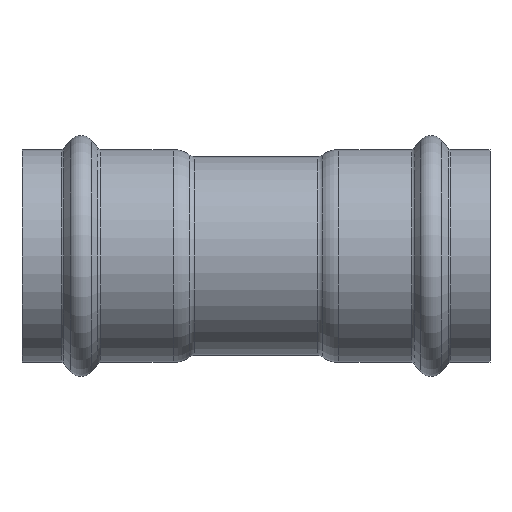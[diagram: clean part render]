
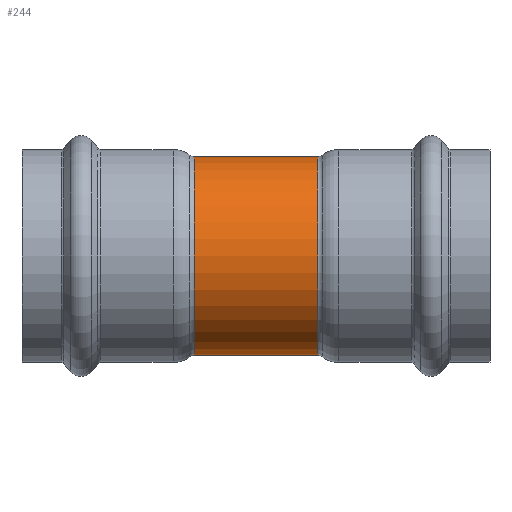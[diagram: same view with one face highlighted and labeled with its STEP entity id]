
A CAD part, front view. The second image highlights one B-rep face of the part: STEP entity #244.
In plain terms, the highlighted cylindrical face has radius 27 mm (diameter 54 mm), a partial arc.
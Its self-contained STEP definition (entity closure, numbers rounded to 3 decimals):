
#46 = AXIS2_PLACEMENT_3D ( 'NONE', #2909, #4128, #4511 ) ;
#244 = ADVANCED_FACE ( 'NONE', ( #2873 ), #4827, .T. ) ;
#294 = LINE ( 'NONE', #3842, #418 ) ;
#405 = CIRCLE ( 'NONE', #2548, 27. ) ;
#418 = VECTOR ( 'NONE', #4997, 1000. ) ;
#693 = VERTEX_POINT ( 'NONE', #1631 ) ;
#715 = DIRECTION ( 'NONE',  ( -1., 0., 0. ) ) ;
#754 = ORIENTED_EDGE ( 'NONE', *, *, #1159, .T. ) ;
#1021 = LINE ( 'NONE', #1403, #3333 ) ;
#1117 = VERTEX_POINT ( 'NONE', #2250 ) ;
#1159 = EDGE_CURVE ( 'NONE', #2356, #2861, #2382, .T. ) ;
#1198 = EDGE_CURVE ( 'NONE', #2356, #1117, #294, .T. ) ;
#1403 = CARTESIAN_POINT ( 'NONE',  ( -17.486, 0., 27. ) ) ;
#1631 = CARTESIAN_POINT ( 'NONE',  ( -16.734, 0., 27. ) ) ;
#1790 = DIRECTION ( 'NONE',  ( -1., 0., 0. ) ) ;
#1934 = AXIS2_PLACEMENT_3D ( 'NONE', #3050, #715, #3449 ) ;
#2030 = DIRECTION ( 'NONE',  ( -1., 0., 0. ) ) ;
#2032 = ORIENTED_EDGE ( 'NONE', *, *, #1198, .F. ) ;
#2095 = ORIENTED_EDGE ( 'NONE', *, *, #3145, .F. ) ;
#2250 = CARTESIAN_POINT ( 'NONE',  ( -16.734, 0., -27. ) ) ;
#2356 = VERTEX_POINT ( 'NONE', #3526 ) ;
#2382 = CIRCLE ( 'NONE', #1934, 27. ) ;
#2548 = AXIS2_PLACEMENT_3D ( 'NONE', #4374, #2030, #4758 ) ;
#2655 = ORIENTED_EDGE ( 'NONE', *, *, #4160, .T. ) ;
#2861 = VERTEX_POINT ( 'NONE', #4147 ) ;
#2873 = FACE_OUTER_BOUND ( 'NONE', #4287, .T. ) ;
#2909 = CARTESIAN_POINT ( 'NONE',  ( -17.486, 0., 0. ) ) ;
#3050 = CARTESIAN_POINT ( 'NONE',  ( 16.734, 0., 0. ) ) ;
#3145 = EDGE_CURVE ( 'NONE', #1117, #693, #405, .T. ) ;
#3333 = VECTOR ( 'NONE', #1790, 1000. ) ;
#3449 = DIRECTION ( 'NONE',  ( 0., 0., 1. ) ) ;
#3526 = CARTESIAN_POINT ( 'NONE',  ( 16.734, 0., -27. ) ) ;
#3842 = CARTESIAN_POINT ( 'NONE',  ( -17.486, 0., -27. ) ) ;
#4128 = DIRECTION ( 'NONE',  ( -1., 0., 0. ) ) ;
#4147 = CARTESIAN_POINT ( 'NONE',  ( 16.734, 0., 27. ) ) ;
#4160 = EDGE_CURVE ( 'NONE', #2861, #693, #1021, .T. ) ;
#4287 = EDGE_LOOP ( 'NONE', ( #2032, #754, #2655, #2095 ) ) ;
#4374 = CARTESIAN_POINT ( 'NONE',  ( -16.734, 0., 0. ) ) ;
#4511 = DIRECTION ( 'NONE',  ( 0., 0., 1. ) ) ;
#4758 = DIRECTION ( 'NONE',  ( 0., 0., 1. ) ) ;
#4827 = CYLINDRICAL_SURFACE ( 'NONE', #46, 27. ) ;
#4997 = DIRECTION ( 'NONE',  ( -1., 0., 0. ) ) ;
